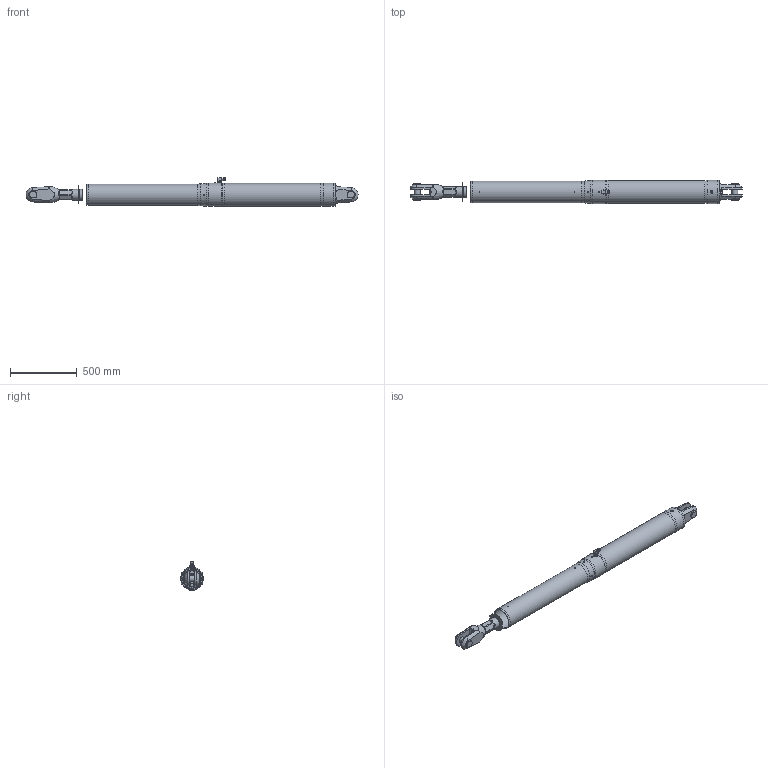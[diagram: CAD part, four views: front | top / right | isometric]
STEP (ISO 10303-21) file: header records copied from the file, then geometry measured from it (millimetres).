
FILE_DESCRIPTION(/* description */ (''),/* implementation_level */ '2;1');
FILE_NAME(/* name */ 'Q:\AA BRAND HYDRAULICS\HYDRAULICS FAMILY DIRECTORY\HYDRAULICS\CYLINDERS\MECHANICAL LOCK RAMS\ALUMINIUM - STAINLESS SINGLE ACTING (-0012 To -0150)\MSA-0150-S0700-NP-71\MSA-0150-S0700-NP-71 (Closed).stp',/* time_stamp */ '2018-04-25T17:39:32+01:00',/* author */ ('Lorena'),/* organization */ (''),/* preprocessor_version */ 'ST-DEVELOPER v17',/* originating_system */ 'Autodesk Inventor 2018',/* authorisation */ '');
FILE_SCHEMA (('AUTOMOTIVE_DESIGN { 1 0 10303 214 3 1 1 }'));
Length unit declared in the file: millimetre
Products named in the file (1): MSA-0150-S0700-NP-71 (Closed)
Bounding box: 2487.42 x 174.4 x 216.3 mm (x, y, z)
Volume: 45446210.9 mm3; surface area: 1310819.9 mm2
Topology: 2 solids, 4 shells, 495 faces, 1298 edges, 848 vertices
Faces by surface type: plane 281, cone 123, cylinder 77, torus 6, sphere 4, bspline 4
Full cylindrical faces by diameter (mm): 4 x1, 4.2 x4, 5 x2, 7 x1, 9 x1, 9.9 x1, 10 x6, 11.1 x1, 18.9 x1, 19 x3, 19.11 x1, 19.9 x1, 20 x1, 20.9 x2, 22 x2, 24 x2, 27.8 x3, 30 x1, 44.45 x2, 49 x1, 55.562 x2, 80 x2, 81 x2, 84 x1, 160 x1, 171.4 x1, 174.4 x4
Entity records: 17014 total; most frequent: CARTESIAN_POINT 4422, ORIENTED_EDGE 2580, DIRECTION 2514, EDGE_CURVE 1290, AXIS2_PLACEMENT_3D 966, VERTEX_POINT 849, LINE 582, VECTOR 582
